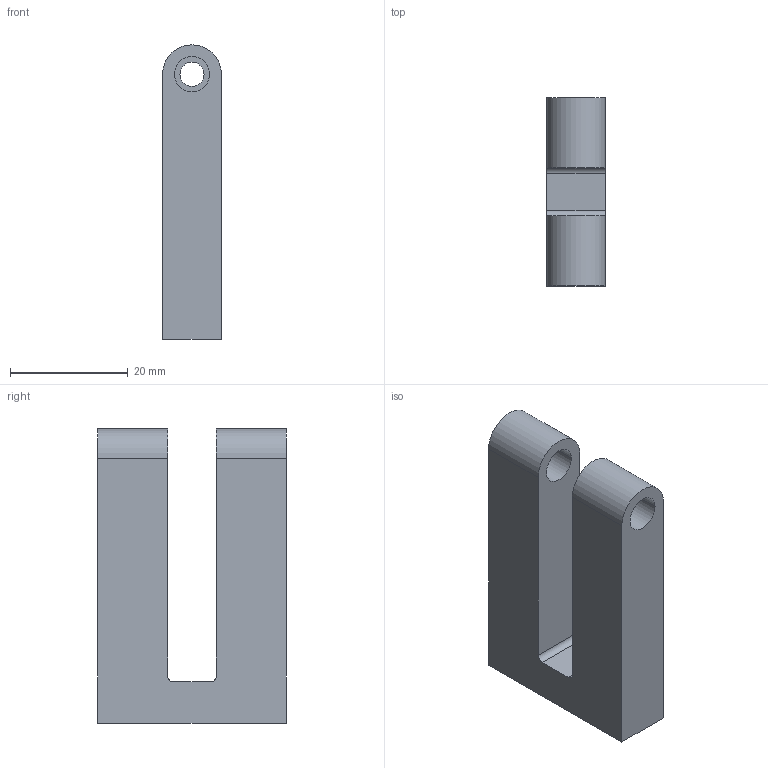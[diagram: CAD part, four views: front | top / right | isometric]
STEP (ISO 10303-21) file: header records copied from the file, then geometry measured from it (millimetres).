
FILE_DESCRIPTION(('CATIA V5 STEP Exchange'),'2;1');
FILE_NAME('C:\Users\Administrator\Desktop\GZ31.12_V1.stp','2021-06-05T03:43:52+00:00',('none'),('none'),'CATIA Version 5 Release 20 GA (IN-10)','CATIA V5 STEP AP214','none');
FILE_SCHEMA(('AUTOMOTIVE_DESIGN { 1 0 10303 214 1 1 1 1 }'));
Length unit declared in the file: millimetre
Products named in the file (1): 2
Bounding box: 10 x 32 x 50 mm (x, y, z)
Volume: 11655.4 mm3; surface area: 5165.9 mm2
Topology: 1 solids, 1 shells, 19 faces, 48 edges, 32 vertices
Faces by surface type: cylinder 10, plane 9
Entity records: 567 total; most frequent: ORIENTED_EDGE 96, CARTESIAN_POINT 95, DIRECTION 76, EDGE_CURVE 48, AXIS2_PLACEMENT_3D 35, VERTEX_POINT 32, VECTOR 28, LINE 28
